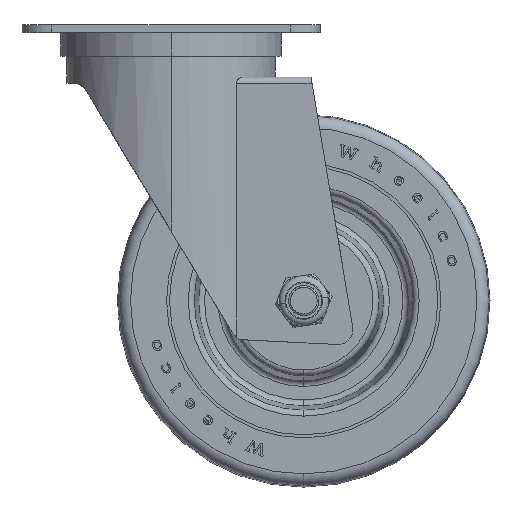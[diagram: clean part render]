
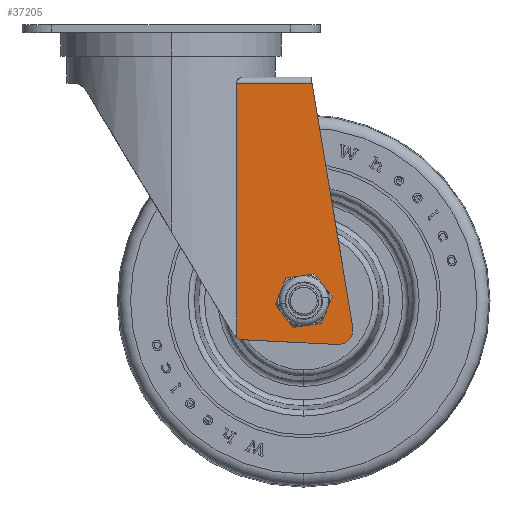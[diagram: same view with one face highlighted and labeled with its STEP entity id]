
A CAD part, top view. The second image highlights one B-rep face of the part: STEP entity #37205.
In plain terms, the highlighted planar face has unit normal (0, 0, 1) as drawn and (0, 0, -1) by its records, which use the part's own axes.
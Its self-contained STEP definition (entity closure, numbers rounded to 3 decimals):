
#99 = FACE_OUTER_BOUND ( 'NONE', #29792, .T. ) ;
#721 = CARTESIAN_POINT ( 'NONE',  ( 24.869, 98.139, -27.25 ) ) ;
#1338 = DIRECTION ( 'NONE',  ( 0.164, 0.986, 0. ) ) ;
#1695 = DIRECTION ( 'NONE',  ( -1., 0., 0. ) ) ;
#2413 = EDGE_CURVE ( 'NONE', #10655, #17730, #41931, .T. ) ;
#2579 = CIRCLE ( 'NONE', #31329, 5. ) ;
#6682 = DIRECTION ( 'NONE',  ( 0., 0., -1. ) ) ;
#6710 = DIRECTION ( 'NONE',  ( 0., -1., 0. ) ) ;
#7257 = CIRCLE ( 'NONE', #16639, 5. ) ;
#7538 = CARTESIAN_POINT ( 'NONE',  ( 60.943, 98.874, -27.25 ) ) ;
#7686 = DIRECTION ( 'NONE',  ( 0., 1., 0. ) ) ;
#7762 = ORIENTED_EDGE ( 'NONE', *, *, #30296, .F. ) ;
#8455 = ORIENTED_EDGE ( 'NONE', *, *, #40633, .F. ) ;
#9158 = CARTESIAN_POINT ( 'NONE',  ( 55.762, 104.69, -27.25 ) ) ;
#9290 = CARTESIAN_POINT ( 'NONE',  ( 21.964, 102.209, -27.25 ) ) ;
#9988 = AXIS2_PLACEMENT_3D ( 'NONE', #21772, #6682, #21296 ) ;
#10342 = VERTEX_POINT ( 'NONE', #25500 ) ;
#10655 = VERTEX_POINT ( 'NONE', #40525 ) ;
#11637 = AXIS2_PLACEMENT_3D ( 'NONE', #12148, #26991, #15565 ) ;
#11807 = LINE ( 'NONE', #26180, #29162 ) ;
#12148 = CARTESIAN_POINT ( 'NONE',  ( 44.5, 90., -27.25 ) ) ;
#12719 = VERTEX_POINT ( 'NONE', #37993 ) ;
#13180 = EDGE_CURVE ( 'NONE', #10342, #16085, #2579, .T. ) ;
#13378 = LINE ( 'NONE', #24606, #18532 ) ;
#13461 = VERTEX_POINT ( 'NONE', #36090 ) ;
#14984 = FACE_BOUND ( 'NONE', #19659, .T. ) ;
#15565 = DIRECTION ( 'NONE',  ( 0., 1., 0. ) ) ;
#16056 = DIRECTION ( 'NONE',  ( 0., 0., 1. ) ) ;
#16085 = VERTEX_POINT ( 'NONE', #9158 ) ;
#16639 = AXIS2_PLACEMENT_3D ( 'NONE', #32166, #47034, #18306 ) ;
#17168 = AXIS2_PLACEMENT_3D ( 'NONE', #44669, #29575, #32723 ) ;
#17415 = ORIENTED_EDGE ( 'NONE', *, *, #35740, .F. ) ;
#17427 = VECTOR ( 'NONE', #34617, 1000. ) ;
#17687 = ORIENTED_EDGE ( 'NONE', *, *, #35162, .F. ) ;
#17730 = VERTEX_POINT ( 'NONE', #9290 ) ;
#17939 = EDGE_CURVE ( 'NONE', #28333, #10342, #7257, .T. ) ;
#18306 = DIRECTION ( 'NONE',  ( 0., -1., 0. ) ) ;
#18532 = VECTOR ( 'NONE', #1695, 1000. ) ;
#19659 = EDGE_LOOP ( 'NONE', ( #7762, #17415 ) ) ;
#20369 = EDGE_CURVE ( 'NONE', #35400, #17730, #11807, .T. ) ;
#21296 = DIRECTION ( 'NONE',  ( 0., 1., 0. ) ) ;
#21772 = CARTESIAN_POINT ( 'NONE',  ( 44.5, 90., -27.25 ) ) ;
#23588 = CARTESIAN_POINT ( 'NONE',  ( 44.5, 95., -27.25 ) ) ;
#23980 = ORIENTED_EDGE ( 'NONE', *, *, #2413, .F. ) ;
#24606 = CARTESIAN_POINT ( 'NONE',  ( 127.5, 17., -27.25 ) ) ;
#25500 = CARTESIAN_POINT ( 'NONE',  ( 61.012, 99.696, -27.25 ) ) ;
#26180 = CARTESIAN_POINT ( 'NONE',  ( 21.964, 108., -27.25 ) ) ;
#26991 = DIRECTION ( 'NONE',  ( 0., 0., -1. ) ) ;
#27169 = VECTOR ( 'NONE', #1338, 1000. ) ;
#28333 = VERTEX_POINT ( 'NONE', #7538 ) ;
#28700 = AXIS2_PLACEMENT_3D ( 'NONE', #721, #16056, #45036 ) ;
#28857 = PLANE ( 'NONE',  #17168 ) ;
#29162 = VECTOR ( 'NONE', #7686, 1000. ) ;
#29512 = EDGE_CURVE ( 'NONE', #12719, #35400, #13378, .T. ) ;
#29575 = DIRECTION ( 'NONE',  ( 0., 0., 1. ) ) ;
#29792 = EDGE_LOOP ( 'NONE', ( #17687, #47563, #39958, #23980, #8455, #44828, #32446 ) ) ;
#30296 = EDGE_CURVE ( 'NONE', #32177, #13461, #42632, .T. ) ;
#31329 = AXIS2_PLACEMENT_3D ( 'NONE', #32490, #32260, #6710 ) ;
#32166 = CARTESIAN_POINT ( 'NONE',  ( 56.012, 99.696, -27.25 ) ) ;
#32177 = VERTEX_POINT ( 'NONE', #23588 ) ;
#32260 = DIRECTION ( 'NONE',  ( 0., 0., 1. ) ) ;
#32446 = ORIENTED_EDGE ( 'NONE', *, *, #17939, .F. ) ;
#32490 = CARTESIAN_POINT ( 'NONE',  ( 56.012, 99.696, -27.25 ) ) ;
#32723 = DIRECTION ( 'NONE',  ( 0., -1., 0. ) ) ;
#34211 = CARTESIAN_POINT ( 'NONE',  ( 64.222, 118.546, -27.25 ) ) ;
#34617 = DIRECTION ( 'NONE',  ( -0.999, -0.05, 0. ) ) ;
#34686 = LINE ( 'NONE', #34211, #27169 ) ;
#35162 = EDGE_CURVE ( 'NONE', #12719, #28333, #34686, .T. ) ;
#35346 = CARTESIAN_POINT ( 'NONE',  ( 127.486, 108.276, -27.25 ) ) ;
#35400 = VERTEX_POINT ( 'NONE', #40648 ) ;
#35740 = EDGE_CURVE ( 'NONE', #13461, #32177, #47415, .T. ) ;
#36090 = CARTESIAN_POINT ( 'NONE',  ( 44.5, 85., -27.25 ) ) ;
#37205 = ADVANCED_FACE ( 'NONE', ( #14984, #99 ), #28857, .F. ) ;
#37993 = CARTESIAN_POINT ( 'NONE',  ( 47.298, 17., -27.25 ) ) ;
#39001 = LINE ( 'NONE', #35346, #17427 ) ;
#39958 = ORIENTED_EDGE ( 'NONE', *, *, #20369, .T. ) ;
#40525 = CARTESIAN_POINT ( 'NONE',  ( 24.619, 103.133, -27.25 ) ) ;
#40633 = EDGE_CURVE ( 'NONE', #16085, #10655, #39001, .T. ) ;
#40648 = CARTESIAN_POINT ( 'NONE',  ( 21.964, 17., -27.25 ) ) ;
#41931 = CIRCLE ( 'NONE', #28700, 5. ) ;
#42632 = CIRCLE ( 'NONE', #9988, 5. ) ;
#44669 = CARTESIAN_POINT ( 'NONE',  ( 127.5, 108., -27.25 ) ) ;
#44828 = ORIENTED_EDGE ( 'NONE', *, *, #13180, .F. ) ;
#45036 = DIRECTION ( 'NONE',  ( 0., -1., 0. ) ) ;
#47034 = DIRECTION ( 'NONE',  ( 0., 0., 1. ) ) ;
#47415 = CIRCLE ( 'NONE', #11637, 5. ) ;
#47563 = ORIENTED_EDGE ( 'NONE', *, *, #29512, .T. ) ;
